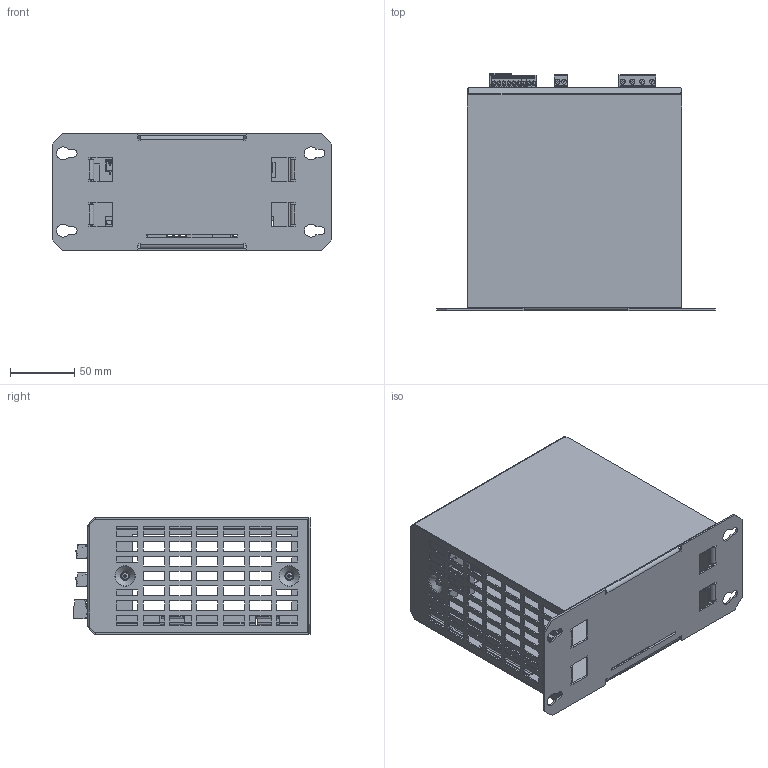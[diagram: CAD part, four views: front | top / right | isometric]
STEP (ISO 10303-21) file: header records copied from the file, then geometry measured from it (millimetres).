
FILE_DESCRIPTION(/* description */ (''),/* implementation_level */ '2;1');
FILE_NAME(/* name */ 'NBPAN33G1M01.stp',/* time_stamp */ '2024-02-19T08:41:11+01:00',/* author */ ('mhe'),/* organization */ (''),/* preprocessor_version */ 'ST-DEVELOPER v19.2',/* originating_system */ 'Autodesk Inventor 2023',/* authorisation */ '');
FILE_SCHEMA (('AUTOMOTIVE_DESIGN { 1 0 10303 214 3 1 1 }'));
Products named in the file (20): N33G01-0001; N33G1K01; N33G1K02; N33G1K03; IC2,5-3-G-5,08; mc_1.5-9-G-3.81; mc_1.5-9-st-3.81; MC 1,5-6-ST-3,81; MC 1,5-6-G-3,81; MC 1,5 2-G-3,5; MC 1,5 2-ST-3,5; IC2,5-3-ST-5,08; GMSTB2,5-4-ST-7,62; MSTB 2,5-2-ST-5,08; MSTB 2,5-3-G-5,08; GMSTB2,5-4-G-7,62; Front 2,5-H-SA5; Front 2,5-Deckel; ISO 7049 - ST2,9 x 6,5 - F - H; N33G1K04
Assembly tree (22 placements, depth 2):
  N33G01-0001
    N33G1K01
    N33G1K02
    N33G1K03
    IC2,5-3-G-5,08
    mc_1.5-9-G-3.81
    mc_1.5-9-st-3.81
    MC 1,5-6-ST-3,81
    MC 1,5-6-G-3,81
    MC 1,5 2-G-3,5
    MC 1,5 2-ST-3,5
    IC2,5-3-ST-5,08
    GMSTB2,5-4-ST-7,62
    MSTB 2,5-2-ST-5,08
    MSTB 2,5-3-G-5,08
    GMSTB2,5-4-G-7,62
    Front 2,5-H-SA5
    Front 2,5-Deckel
    ISO 7049 - ST2,9 x 6,5 - F - H  x4
    N33G1K04
Bounding box: 216.5 x 184.09 x 90.5 mm (x, y, z)
Volume: 158850.9 mm3; surface area: 286618.9 mm2
Topology: 151 solids, 151 shells, 6964 faces, 17521 edges, 11288 vertices
Faces by surface type: plane 5163, cylinder 874, bspline 665, cone 131, torus 91, sphere 40
Full cylindrical faces by diameter (mm): 0.434 x2, 0.457 x9, 0.609 x2, 1.2 x19, 1.25 x17, 1.4 x19, 1.5 x5, 1.6 x28, 2 x1, 2.4 x11, 2.8 x29, 2.9 x21, 3 x8, 3.6 x1, 3.783 x6, 3.8 x3, 4 x13
Entity records: 217693 total; most frequent: CARTESIAN_POINT 50157, ORIENTED_EDGE 34540, DIRECTION 30771, EDGE_CURVE 17270, LINE 13123, VECTOR 13123, VERTEX_POINT 11144, AXIS2_PLACEMENT_3D 8824
